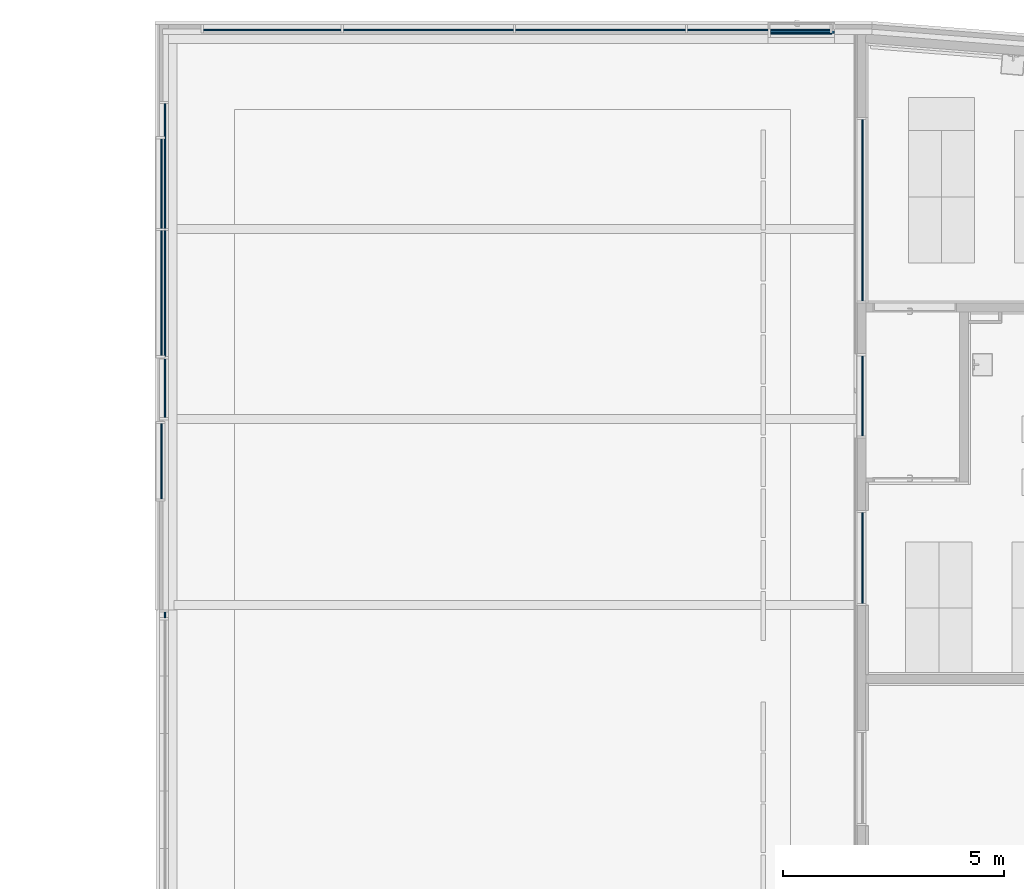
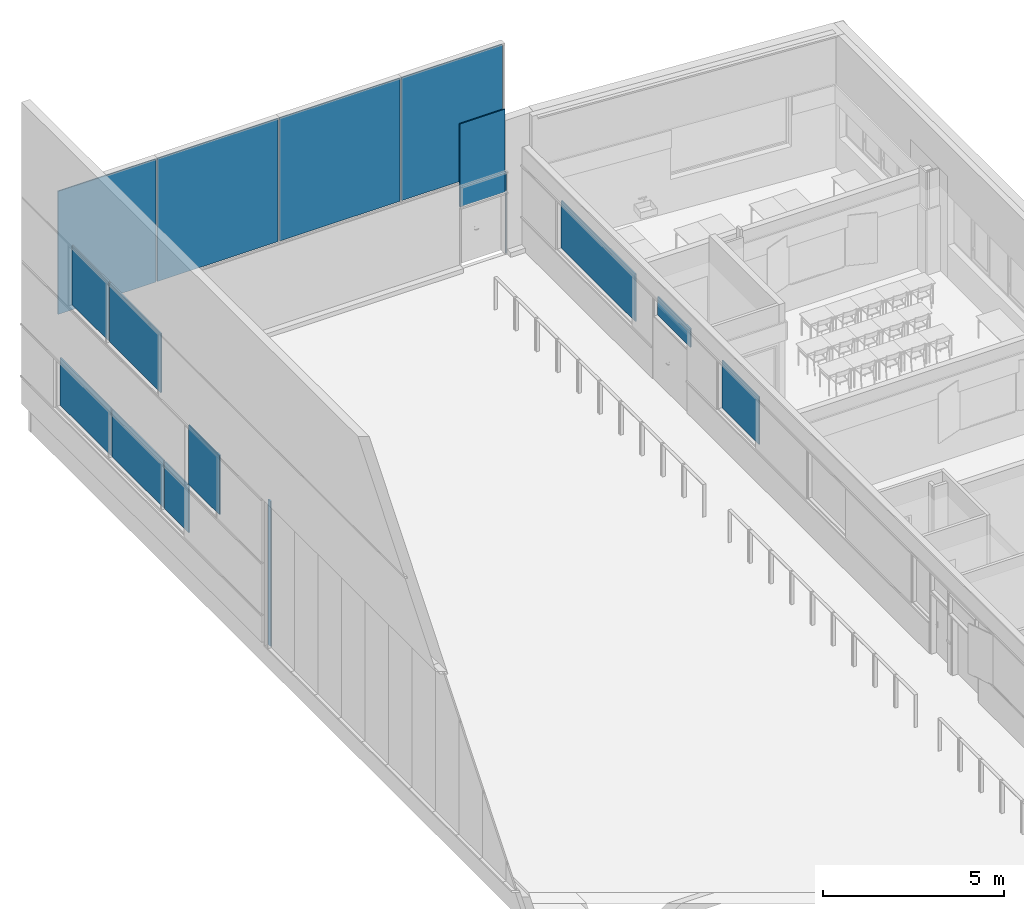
# One storey, part 31 of 137: 17 plates, 11 elements without a shape of their own.
"""IFC2X3 building model written with IfcOpenShell, lengths in centimetres."""

import ifcopenshell
import ifcopenshell.guid

model = None  # the IFC model being written
_history = None  # IfcOwnerHistory: only IFC2X3 demands one
_inside = {}  # id of a spatial element -> (the spatial element, [elements in it])
_under = {}  # id of a project, library or spatial element -> (it, [spatial elements below it])
_declared = {}  # id of a project -> (the project, [libraries it declares])
_typed = {}  # id of a type object -> (the type object, [elements of that type])
_made_of = {}  # id of a material, layer set ... -> (it, [elements and type objects made of it])


def new_model(schema):
    """Start an empty IFC model of exactly this schema.

    Asked for "IFC4X3", IfcOpenShell would pick the latest addendum, in which some entities
    have other attributes; the version numbers below select the first issue.
    IFC2X3 requires an IfcOwnerHistory on every rooted entity: one is made here for all.
    """
    global model, _history
    if schema == "IFC4X3":
        model = ifcopenshell.file(schema_version=(4, 3, 0, 0))
    else:
        model = ifcopenshell.file(schema=schema)
    _inside.clear()
    _under.clear()
    _declared.clear()
    _typed.clear()
    _made_of.clear()
    _history = None
    if model.schema == "IFC2X3":
        org = make("IfcOrganization", Name="unknown")
        user = make(
            "IfcPersonAndOrganization",
            ThePerson=make("IfcPerson", FamilyName="unknown"),
            TheOrganization=org,
        )
        app = make(
            "IfcApplication",
            ApplicationDeveloper=org,
            Version="unknown",
            ApplicationFullName="unknown",
            ApplicationIdentifier="unknown",
        )
        _history = make(
            "IfcOwnerHistory",
            OwningUser=user,
            OwningApplication=app,
            ChangeAction="ADDED",
            CreationDate=0,
        )
    return model


def make(cls, **values):
    """One entity of the class cls with the attributes given. An attribute that is None is left unset."""
    return model.create_entity(
        cls, **{name: value for name, value in values.items() if value is not None}
    )


def entity(cls, *values):
    """Any entity or typed value of the class cls, its attributes in the order of the schema. None: left unset."""
    e = model.create_entity(cls)
    for i, value in enumerate(values):
        if value is not None:
            e[i] = value
    return e


def rooted(cls, **values):
    """An entity with a GlobalId (a new one), such as an element, a storey or a relation."""
    return make(cls, GlobalId=ifcopenshell.guid.new(), OwnerHistory=_history, **values)


def si_unit(unit_type, name, prefix=None):
    """IfcSIUnit, for example si_unit("LENGTHUNIT", "METRE", prefix="MILLI")."""
    return make("IfcSIUnit", UnitType=unit_type, Prefix=prefix, Name=name)


def converted_unit(unit_type, name, factor, base, dimensions=None, offset=None):
    """IfcConversionBasedUnit, such as the inch: factor (a typed value) times the base unit."""
    return make(
        "IfcConversionBasedUnit"
        if offset is None
        else "IfcConversionBasedUnitWithOffset",
        ConversionOffset=offset,
        Dimensions=None
        if dimensions is None
        else entity("IfcDimensionalExponents", *dimensions),
        UnitType=unit_type,
        Name=name,
        ConversionFactor=make(
            "IfcMeasureWithUnit", ValueComponent=factor, UnitComponent=base
        ),
    )


def derived_unit(unit_type, elements):
    """IfcDerivedUnit: a product of units, each with its exponent."""
    return make(
        "IfcDerivedUnit",
        Elements=[
            make("IfcDerivedUnitElement", Unit=unit, Exponent=power)
            for unit, power in elements
        ],
        UnitType=unit_type,
    )


def assignment(units):
    """IfcUnitAssignment: the units of a project."""
    return None if units is None else make("IfcUnitAssignment", Units=units)


def point(xyz):
    """IfcCartesianPoint."""
    return None if xyz is None else make("IfcCartesianPoint", Coordinates=xyz)


def direction(xyz):
    """IfcDirection."""
    return None if xyz is None else make("IfcDirection", DirectionRatios=xyz)


def frame(location, z_axis=None, x_axis=None):
    """IfcAxis2Placement3D, a coordinate frame: its origin and axes. An axis left out is left unset."""
    return make(
        "IfcAxis2Placement3D",
        Location=point(location),
        Axis=direction(z_axis),
        RefDirection=direction(x_axis),
    )


def frame_2d(location, x_axis=None):
    """IfcAxis2Placement2D, a coordinate frame in the plane: its origin and x axis."""
    return make(
        "IfcAxis2Placement2D", Location=point(location), RefDirection=direction(x_axis)
    )


def origin():
    """The frame at (0, 0, 0) with its axes left unset."""
    return frame((0.0, 0.0, 0.0))


def origin_2d_with_axis():
    """The frame at (0, 0) in the plane with the x axis (1, 0) written out."""
    return frame_2d((0.0, 0.0), x_axis=(1.0, 0.0))


def place(relative_to, where):
    """IfcLocalPlacement: puts the frame where relative to a parent placement (None: the world)."""
    return make(
        "IfcLocalPlacement", PlacementRelTo=relative_to, RelativePlacement=where
    )


def context(
    kind, dimensions, precision=None, world=None, true_north=None, identifier=None
):
    """IfcGeometricRepresentationContext, for example the 3D "Model" context."""
    return make(
        "IfcGeometricRepresentationContext",
        ContextIdentifier=identifier,
        ContextType=kind,
        CoordinateSpaceDimension=dimensions,
        Precision=precision,
        WorldCoordinateSystem=world,
        TrueNorth=true_north,
    )


def subcontext(parent, identifier, kind, view, scale=None):
    """IfcGeometricRepresentationSubContext, for example "Body" below "Model"."""
    return make(
        "IfcGeometricRepresentationSubContext",
        ContextIdentifier=identifier,
        ContextType=kind,
        ParentContext=parent,
        TargetScale=scale,
        TargetView=view,
    )


def project(units=None, contexts=None):
    """IfcProject with its units and contexts."""
    return rooted(
        "IfcProject",
        Name="project",
        RepresentationContexts=contexts,
        UnitsInContext=assignment(units),
    )


def spatial(cls, under=None, at=None, **own):
    """A site, building, storey or space (cls), placed at a placement, below another one or the project."""
    s = rooted(cls, ObjectPlacement=at, **own)
    if under is not None:
        _under.setdefault(under.id(), (under, []))[1].append(s)
    return s


def polyline(points):
    """IfcPolyline through the points."""
    return make("IfcPolyline", Points=[point(p) for p in points])


def profile(cls, at=None, kind="AREA", **sizes):
    """A parametric profile (cls). Its sizes go by their IFC names, for example OverallWidth=200.0."""
    return make(cls, ProfileType=kind, Position=at, **sizes)


def rectangle(**sizes):
    """IfcRectangleProfileDef."""
    return profile("IfcRectangleProfileDef", **sizes)


def outline(outer, holes=None, kind="AREA"):
    """IfcArbitraryClosedProfileDef: a profile drawn as a closed curve; with holes, ...WithVoids."""
    if holes is None:
        return make("IfcArbitraryClosedProfileDef", ProfileType=kind, OuterCurve=outer)
    return make(
        "IfcArbitraryProfileDefWithVoids",
        ProfileType=kind,
        OuterCurve=outer,
        InnerCurves=holes,
    )


def extrude(swept, where, along, depth):
    """IfcExtrudedAreaSolid: the profile swept, set in the frame where, extruded along a direction by depth."""
    return make(
        "IfcExtrudedAreaSolid",
        SweptArea=swept,
        Position=where,
        ExtrudedDirection=direction(along),
        Depth=depth,
    )


def shape(context_of_items, identifier, shape_type, items):
    """IfcShapeRepresentation: the items that make up one representation, for example the "Body"."""
    return make(
        "IfcShapeRepresentation",
        ContextOfItems=context_of_items,
        RepresentationIdentifier=identifier,
        RepresentationType=shape_type,
        Items=items,
    )


def source(mapping_origin, context_of_items, identifier, shape_type, items):
    """IfcRepresentationMap: a shape defined once, which mapped items show again and again."""
    return make(
        "IfcRepresentationMap",
        MappingOrigin=mapping_origin,
        MappedRepresentation=shape(context_of_items, identifier, shape_type, items),
    )


def transform(
    local_origin,
    x_axis=None,
    y_axis=None,
    z_axis=None,
    scale=None,
    scale2=None,
    scale3=None,
    uniform=True,
):
    """IfcCartesianTransformationOperator3D, or its non-uniform kind. x_axis, y_axis, z_axis: its Axis1, 2, 3."""
    if uniform:
        return make(
            "IfcCartesianTransformationOperator3D",
            Axis1=direction(x_axis),
            Axis2=direction(y_axis),
            LocalOrigin=point(local_origin),
            Scale=scale,
            Axis3=direction(z_axis),
        )
    return make(
        "IfcCartesianTransformationOperator3DnonUniform",
        Axis1=direction(x_axis),
        Axis2=direction(y_axis),
        LocalOrigin=point(local_origin),
        Scale=scale,
        Axis3=direction(z_axis),
        Scale2=scale2,
        Scale3=scale3,
    )


def mapped(mapping_source, mapping_target):
    """IfcMappedItem: shows the shape of a source again, moved by a transform."""
    return make(
        "IfcMappedItem", MappingSource=mapping_source, MappingTarget=mapping_target
    )


def material(Name=None, Category=None):
    """IfcMaterial."""
    return make("IfcMaterial", Name=Name, Category=Category)


def made_of(thing, what):
    """Note that an element or type object is made of a material, layer set ...; save() writes the relation."""
    if what is not None:
        _made_of.setdefault(what.id(), (what, []))[1].append(thing)
    return thing


def type_object(cls, material=None, **own):
    """A type object (cls), such as IfcWallType, which elements share."""
    return made_of(rooted(cls, **own), material)


def type_shapes(of_type, sources):
    """Give a type object the sources (RepresentationMaps) that its elements show as mapped items."""
    of_type.RepresentationMaps = sources


def element(
    cls,
    number,
    at=None,
    inside=None,
    cuts=None,
    type_object=None,
    material=None,
    context=None,
    identifier="Body",
    shape_type=None,
    held_by="IfcProductDefinitionShape",
    body=None,
    shapes=None,
    **own,
):
    """One element of the class cls, such as IfcWall. Its Tag is "e" and its number.

    at: its placement. inside: the storey or other place that contains it. cuts: it is an
    opening in that element (IfcRelVoidsElement). A single representation is given by context,
    identifier, shape_type and body (its items); several are given by shapes. held_by: the class
    of the entity that holds the representations. save() writes the other relations.
    """
    e = rooted(cls, Tag="e%d" % number, ObjectPlacement=at, **own)
    if body is not None:
        shapes = [shape(context, identifier, shape_type, body)]
    if shapes is not None:
        e.Representation = make(held_by, Representations=shapes)
    if inside is not None:
        _inside.setdefault(inside.id(), (inside, []))[1].append(e)
    if cuts is not None:
        rooted(
            "IfcRelVoidsElement", RelatingBuildingElement=cuts, RelatedOpeningElement=e
        )
    if type_object is not None:
        _typed.setdefault(type_object.id(), (type_object, []))[1].append(e)
    return made_of(e, material)


def aggregate(whole, parts):
    """IfcRelAggregates: a whole, such as a stair, and the parts it consists of."""
    return rooted("IfcRelAggregates", RelatingObject=whole, RelatedObjects=parts)


def save(model, path):
    """Write the relations noted so far, then the file.

    IfcRelAggregates (storeys below a building ...), IfcRelContainedInSpatialStructure (elements
    in a storey), IfcRelDefinesByType, IfcRelAssociatesMaterial and IfcRelDeclares: one each for
    every whole, place, type object, material and project.
    """
    for whole, parts in _under.values():
        aggregate(whole, parts)
    for where, things in _inside.values():
        rooted(
            "IfcRelContainedInSpatialStructure",
            RelatedElements=things,
            RelatingStructure=where,
        )
    for kind, things in _typed.values():
        rooted("IfcRelDefinesByType", RelatedObjects=things, RelatingType=kind)
    for what, things in _made_of.values():
        rooted("IfcRelAssociatesMaterial", RelatedObjects=things, RelatingMaterial=what)
    for by, libraries in _declared.values():
        rooted("IfcRelDeclares", RelatingContext=by, RelatedDefinitions=libraries)
    model.write(path)


model = new_model("IFC2X3")

# Units and contexts
model_context = context("Model", 3, precision=0.001, world=origin(), true_north=direction((6.12303176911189e-17, 1.0)))
body_context = subcontext(model_context, "Body", "Model", "MODEL_VIEW")
ifc_project = project(units=[si_unit("LENGTHUNIT", "METRE", prefix="CENTI"), si_unit("AREAUNIT", "SQUARE_METRE"), si_unit("VOLUMEUNIT", "CUBIC_METRE"), converted_unit("PLANEANGLEUNIT", "DEGREE", entity("IfcRatioMeasure", 0.0174532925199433), si_unit("PLANEANGLEUNIT", "RADIAN"), dimensions=[0, 0, 0, 0, 0, 0, 0]), si_unit("MASSUNIT", "GRAM", prefix="KILO"), si_unit("TIMEUNIT", "SECOND"), si_unit("FREQUENCYUNIT", "HERTZ"), si_unit("THERMODYNAMICTEMPERATUREUNIT", "DEGREE_CELSIUS"), derived_unit("THERMALTRANSMITTANCEUNIT", [(si_unit("MASSUNIT", "GRAM", prefix="KILO"), 1), (si_unit("THERMODYNAMICTEMPERATUREUNIT", "KELVIN"), -1), (si_unit("TIMEUNIT", "SECOND"), -3)]), derived_unit("VOLUMETRICFLOWRATEUNIT", [(si_unit("LENGTHUNIT", "METRE"), 3), (si_unit("TIMEUNIT", "SECOND"), -1)]), si_unit("ELECTRICCURRENTUNIT", "AMPERE"), si_unit("ELECTRICVOLTAGEUNIT", "VOLT"), si_unit("POWERUNIT", "WATT"), si_unit("FORCEUNIT", "NEWTON", prefix="KILO"), si_unit("ILLUMINANCEUNIT", "LUX"), si_unit("LUMINOUSFLUXUNIT", "LUMEN"), si_unit("LUMINOUSINTENSITYUNIT", "CANDELA"), derived_unit("USERDEFINED", [(si_unit("MASSUNIT", "GRAM", prefix="KILO"), -1), (si_unit("LENGTHUNIT", "METRE"), -2), (si_unit("TIMEUNIT", "SECOND"), 3), (si_unit("LUMINOUSFLUXUNIT", "LUMEN"), 1)]), derived_unit("LINEARVELOCITYUNIT", [(si_unit("LENGTHUNIT", "METRE"), 1), (si_unit("TIMEUNIT", "SECOND"), -1)]), si_unit("PRESSUREUNIT", "PASCAL"), derived_unit("USERDEFINED", [(si_unit("LENGTHUNIT", "METRE"), -2), (si_unit("MASSUNIT", "GRAM", prefix="KILO"), 1), (si_unit("TIMEUNIT", "SECOND"), -2)])], contexts=[model_context])

# Site, building, storey
site_placement = place(None, frame((8.62739174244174, -249.285249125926, 0.0)))
site = spatial("IfcSite", under=ifc_project, at=site_placement, Name="Default", CompositionType="ELEMENT")
building_placement = place(site_placement, origin())
building = spatial("IfcBuilding", under=site, at=building_placement, CompositionType="ELEMENT")
storey_placement = place(building_placement, origin())
storey = spatial("IfcBuildingStorey", under=building, at=storey_placement, Name="RDC", CompositionType="ELEMENT", Elevation=-8.82465566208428e-11)

# Curtain wall, plates
curtain_wall_type = type_object("IfcCurtainWallType", Name="Mur-rideau:Simple panneau", PredefinedType="NOTDEFINED")
curtain_wall_1_placement = place(storey_placement, origin())
curtain_wall_1 = element("IfcCurtainWall", 1, at=curtain_wall_1_placement, inside=storey, type_object=curtain_wall_type, Name="Mur-rideau:Simple panneau", ObjectType="Mur-rideau:Simple panneau")
ifc_material_1 = material(Name="Verre")
plate_type_1 = type_object("IfcPlateType", Name="Vitré", PredefinedType="CURTAIN_PANEL", material=ifc_material_1)
shared_shape_1 = source(origin(), body_context, "Body", "SweptSolid", [
    extrude(rectangle(XDim=4.0, YDim=202.500000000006, at=frame_2d((4.44089209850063e-16, 0.0), x_axis=(1.0, 0.0))), frame((0.0, 2.49999999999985, 0.0), z_axis=(0.0, 0.0, 1.0), x_axis=(0.0, 1.0, 0.0)), (0.0, 0.0, 1.0), 200.0),
])
type_shapes(plate_type_1, [shared_shape_1])
plate_1_placement = place(curtain_wall_1_placement, frame((1458.9048277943, 7224.72694586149, 505.0), z_axis=(0.0, 0.0, 1.0), x_axis=(0.0, -1.0, 0.0)))
plate_1 = element("IfcPlate", 2, at=plate_1_placement, type_object=plate_type_1, material=ifc_material_1, Name="Panneau système:Vitré", ObjectType="Vitré", context=body_context, shape_type="MappedRepresentation", body=[
    mapped(shared_shape_1, transform((0.0, 0.0, 0.0), scale=1.0)),
])
plate_type_2 = type_object("IfcPlateType", Name="Vitré", PredefinedType="CURTAIN_PANEL", material=ifc_material_1)
shared_shape_2 = source(origin(), body_context, "Body", "SweptSolid", [
    extrude(rectangle(XDim=4.0, YDim=282.5, at=frame_2d((4.44089209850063e-16, 0.0), x_axis=(1.0, 0.0))), frame((0.0, 2.50000000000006, 0.0), z_axis=(0.0, 0.0, 1.0), x_axis=(0.0, 1.0, 0.0)), (0.0, 0.0, 1.0), 200.0),
])
type_shapes(plate_type_2, [shared_shape_2])
plate_2_placement = place(curtain_wall_1_placement, frame((1458.9048277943, 6977.22694586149, 505.0), z_axis=(0.0, 0.0, 1.0), x_axis=(0.0, -1.0, 0.0)))
plate_2 = element("IfcPlate", 3, at=plate_2_placement, type_object=plate_type_2, material=ifc_material_1, Name="Panneau système:Vitré", ObjectType="Vitré", context=body_context, shape_type="MappedRepresentation", body=[
    mapped(shared_shape_2, transform((0.0, 0.0, 0.0), scale=1.0)),
])
aggregate(curtain_wall_1, [plate_1, plate_2])

# Curtain wall, plate
curtain_wall_2_placement = place(storey_placement, origin())
curtain_wall_2 = element("IfcCurtainWall", 4, at=curtain_wall_2_placement, inside=storey, type_object=curtain_wall_type, Name="Mur-rideau:Simple panneau", ObjectType="Mur-rideau:Simple panneau")
ifc_material_2 = material(Name="Par défaut")
plate_type_3 = type_object("IfcPlateType", Name="Plein", PredefinedType="CURTAIN_PANEL", material=ifc_material_2)
shared_shape_3 = source(origin(), body_context, "Body", "SweptSolid", [
    extrude(rectangle(XDim=4.0, YDim=12.4999999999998, at=frame_2d((4.44089209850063e-16, 0.0), x_axis=(1.0, 0.0))), frame((0.0, 2.50000000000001, 0.0), z_axis=(0.0, 0.0, 1.0), x_axis=(0.0, 1.0, 0.0)), (0.0, 0.0, 1.0), 490.0),
])
type_shapes(plate_type_3, [shared_shape_3])
plate_3_placement = place(curtain_wall_2_placement, frame((1466.9048277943, 6250.02522290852, 5.0), z_axis=(0.0, 0.0, 1.0), x_axis=(0.0, -1.0, 0.0)))
plate_3 = element("IfcPlate", 5, at=plate_3_placement, type_object=plate_type_3, material=ifc_material_2, Name="Panneau système:Plein", ObjectType="Plein", context=body_context, shape_type="MappedRepresentation", body=[
    mapped(shared_shape_3, transform((0.0, 0.0, 0.0), scale=1.0)),
])
aggregate(curtain_wall_2, [plate_3])

curtain_wall_3_placement = place(storey_placement, origin())
curtain_wall_3 = element("IfcCurtainWall", 6, at=curtain_wall_3_placement, inside=storey, type_object=curtain_wall_type, Name="Mur-rideau:Simple panneau", ObjectType="Mur-rideau:Simple panneau")
plate_type_4 = type_object("IfcPlateType", Name="Vitré", PredefinedType="CURTAIN_PANEL", material=ifc_material_1)
shared_shape_4 = source(origin(), body_context, "Body", "SweptSolid", [
    extrude(rectangle(XDim=4.0, YDim=284.999999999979, at=origin_2d_with_axis()), frame((0.0, 2.49999999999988, 0.0), z_axis=(0.0, 0.0, 1.0), x_axis=(0.0, 1.0, 0.0)), (0.0, 0.0, 1.0), 159.999999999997),
])
type_shapes(plate_type_4, [shared_shape_4])
plate_4_placement = place(curtain_wall_3_placement, frame((1466.9048277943, 6976.0753356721, 115.0), z_axis=(0.0, 0.0, 1.0), x_axis=(0.0, -1.0, 0.0)))
plate_4 = element("IfcPlate", 7, at=plate_4_placement, type_object=plate_type_4, material=ifc_material_1, Name="Panneau système:Vitré", ObjectType="Vitré", context=body_context, shape_type="MappedRepresentation", body=[
    mapped(shared_shape_4, transform((0.0, 0.0, 0.0), scale=1.0)),
])

curtain_wall_4_placement = place(storey_placement, origin())
curtain_wall_4 = element("IfcCurtainWall", 8, at=curtain_wall_4_placement, inside=storey, type_object=curtain_wall_type, Name="Mur-rideau:Simple panneau", ObjectType="Mur-rideau:Simple panneau")
plate_type_5 = type_object("IfcPlateType", Name="Vitré", PredefinedType="CURTAIN_PANEL", material=ifc_material_1)
shared_shape_5 = source(origin(), body_context, "Body", "SweptSolid", [
    extrude(rectangle(XDim=4.0, YDim=205.0, at=origin_2d_with_axis()), frame((0.0, -2.50000000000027, 0.0), z_axis=(0.0, 0.0, 1.0), x_axis=(0.0, 1.0, 0.0)), (0.0, 0.0, 1.0), 160.0),
])
type_shapes(plate_type_5, [shared_shape_5])
plate_5_placement = place(curtain_wall_4_placement, frame((3043.9048277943, 6378.77522290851, 115.0), z_axis=(0.0, 0.0, 1.0), x_axis=(0.0, 1.0, 0.0)))
plate_5 = element("IfcPlate", 9, at=plate_5_placement, type_object=plate_type_5, material=ifc_material_1, Name="Panneau système:Vitré", ObjectType="Vitré", context=body_context, shape_type="MappedRepresentation", body=[
    mapped(shared_shape_5, transform((0.0, 0.0, 0.0), scale=1.0)),
])
aggregate(curtain_wall_4, [plate_5])

curtain_wall_5_placement = place(storey_placement, origin())
curtain_wall_5 = element("IfcCurtainWall", 10, at=curtain_wall_5_placement, inside=storey, type_object=curtain_wall_type, Name="Mur-rideau:Simple panneau", ObjectType="Mur-rideau:Simple panneau")
plate_type_6 = type_object("IfcPlateType", Name="Vitré", PredefinedType="CURTAIN_PANEL", material=ifc_material_1)
shared_shape_6 = source(origin(), body_context, "Body", "SweptSolid", [
    extrude(rectangle(XDim=4.0, YDim=410.000000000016, at=origin_2d_with_axis()), frame((0.0, -2.50000000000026, 0.0), z_axis=(0.0, 0.0, 1.0), x_axis=(0.0, 1.0, 0.0)), (0.0, 0.0, 1.0), 160.0),
])
type_shapes(plate_type_6, [shared_shape_6])
plate_6_placement = place(curtain_wall_5_placement, frame((3043.9048277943, 7164.7007380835, 115.0), z_axis=(0.0, 0.0, 1.0), x_axis=(0.0, 1.0, 0.0)))
plate_6 = element("IfcPlate", 11, at=plate_6_placement, type_object=plate_type_6, material=ifc_material_1, Name="Panneau système:Vitré", ObjectType="Vitré", context=body_context, shape_type="MappedRepresentation", body=[
    mapped(shared_shape_6, transform((0.0, 0.0, 0.0), scale=1.0)),
])
aggregate(curtain_wall_5, [plate_6])

curtain_wall_6_placement = place(storey_placement, origin())
curtain_wall_6 = element("IfcCurtainWall", 12, at=curtain_wall_6_placement, inside=storey, type_object=curtain_wall_type, Name="Mur-rideau:Simple panneau", ObjectType="Mur-rideau:Simple panneau")
plate_type_7 = type_object("IfcPlateType", Name="Vitré", PredefinedType="CURTAIN_PANEL", material=ifc_material_1)
shared_shape_7 = source(origin(), body_context, "Body", "SweptSolid", [
    extrude(rectangle(XDim=4.0, YDim=169.999999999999, at=origin_2d_with_axis()), frame((0.0, 2.5, 0.0), z_axis=(0.0, 0.0, 1.0), x_axis=(0.0, 1.0, 0.0)), (0.0, 0.0, 1.0), 199.999999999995),
])
type_shapes(plate_type_7, [shared_shape_7])
plate_7_placement = place(curtain_wall_6_placement, frame((1458.9048277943, 6597.47200252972, 290.0), z_axis=(0.0, 0.0, 1.0), x_axis=(0.0, -1.0, 0.0)))
plate_7 = element("IfcPlate", 13, at=plate_7_placement, type_object=plate_type_7, material=ifc_material_1, Name="Panneau système:Vitré", ObjectType="Vitré", context=body_context, shape_type="MappedRepresentation", body=[
    mapped(shared_shape_7, transform((0.0, 0.0, 0.0), scale=1.0)),
])
aggregate(curtain_wall_6, [plate_7])

curtain_wall_7_placement = place(storey_placement, origin())
curtain_wall_7 = element("IfcCurtainWall", 14, at=curtain_wall_7_placement, inside=storey, type_object=curtain_wall_type, Name="Mur-rideau:Simple panneau", ObjectType="Mur-rideau:Simple panneau")
plate_8_placement = place(curtain_wall_7_placement, frame((1458.90482779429, 6597.47200252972, 290.0), z_axis=(0.0, 0.0, 1.0), x_axis=(0.0, -1.0, 0.0)))
plate_8 = element("IfcPlate", 15, at=plate_8_placement, type_object=plate_type_7, material=ifc_material_1, Name="Panneau système:Vitré", ObjectType="Vitré", context=body_context, shape_type="MappedRepresentation", body=[
    mapped(shared_shape_7, transform((0.0, 0.0, 0.0), scale=1.0)),
])
aggregate(curtain_wall_7, [plate_8])

# Plate
plate_type_8 = type_object("IfcPlateType", Name="Vitré", PredefinedType="CURTAIN_PANEL", material=ifc_material_1)
shared_shape_8 = source(origin(), body_context, "Body", "SweptSolid", [
    extrude(rectangle(XDim=4.0, YDim=282.396666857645, at=origin_2d_with_axis()), frame((0.0, 2.49999999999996, 0.0), z_axis=(0.0, 0.0, 1.0), x_axis=(0.0, 1.0, 0.0)), (0.0, 0.0, 1.0), 159.999999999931),
])
type_shapes(plate_type_8, [shared_shape_8])
plate_9_placement = place(curtain_wall_3_placement, frame((1466.9048277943, 7264.77366910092, 115.0), z_axis=(0.0, 0.0, 1.0), x_axis=(0.0, -1.0, 0.0)))
plate_9 = element("IfcPlate", 16, at=plate_9_placement, type_object=plate_type_8, material=ifc_material_1, Name="Panneau système:Vitré", ObjectType="Vitré", context=body_context, shape_type="MappedRepresentation", body=[
    mapped(shared_shape_8, transform((0.0, 0.0, 0.0), scale=1.0)),
])

plate_type_9 = type_object("IfcPlateType", Name="Vitré", PredefinedType="CURTAIN_PANEL", material=ifc_material_1)
shared_shape_9 = source(origin(), body_context, "Body", "SweptSolid", [
    extrude(rectangle(XDim=4.0, YDim=132.603333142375, at=frame_2d((4.44089209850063e-16, 0.0), x_axis=(1.0, 0.0))), frame((0.0, 2.50000000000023, 0.0), z_axis=(0.0, 0.0, 1.0), x_axis=(0.0, 1.0, 0.0)), (0.0, 0.0, 1.0), 159.999999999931),
])
type_shapes(plate_type_9, [shared_shape_9])
plate_10_placement = place(curtain_wall_3_placement, frame((1466.9048277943, 6762.27366910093, 115.0), z_axis=(0.0, 0.0, 1.0), x_axis=(0.0, -1.0, 0.0)))
plate_10 = element("IfcPlate", 17, at=plate_10_placement, type_object=plate_type_9, material=ifc_material_1, Name="Panneau système:Vitré", ObjectType="Vitré", context=body_context, shape_type="MappedRepresentation", body=[
    mapped(shared_shape_9, transform((0.0, 0.0, 0.0), scale=1.0)),
])

aggregate(curtain_wall_3, [plate_9, plate_4, plate_10])

# Curtain wall, plates
curtain_wall_8_placement = place(storey_placement, origin())
curtain_wall_8 = element("IfcCurtainWall", 18, at=curtain_wall_8_placement, inside=storey, type_object=curtain_wall_type, Name="Mur-rideau:Simple panneau", ObjectType="Mur-rideau:Simple panneau")
plate_type_10 = type_object("IfcPlateType", Name="Vitré", PredefinedType="CURTAIN_PANEL", material=ifc_material_1)
shared_shape_10 = source(origin(), body_context, "Body", "SweptSolid", [
    extrude(rectangle(XDim=4.0, YDim=321.780764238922, at=frame_2d((-4.44089209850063e-16, 0.0), x_axis=(1.0, 0.0))), frame((0.0, 2.50000000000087, 0.0), z_axis=(0.0, 0.0, 1.0), x_axis=(0.0, 1.0, 0.0)), (0.0, 0.0, 1.0), 415.000000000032),
])
type_shapes(plate_type_10, [shared_shape_10])
plate_11_placement = place(curtain_wall_8_placement, frame((2812.01444568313, 7574.976551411, 290.0), z_axis=(0.0, 0.0, 1.0), x_axis=(-1.0, 0.0, 0.0)))
plate_11 = element("IfcPlate", 19, at=plate_11_placement, type_object=plate_type_10, material=ifc_material_1, Name="Panneau système:Vitré", ObjectType="Vitré", context=body_context, shape_type="MappedRepresentation", body=[
    mapped(shared_shape_10, transform((0.0, 0.0, 0.0), scale=1.0)),
])
plate_type_11 = type_object("IfcPlateType", Name="Vitré", PredefinedType="CURTAIN_PANEL", material=ifc_material_1)
shared_shape_11 = source(origin(), body_context, "Body", "SweptSolid", [
    extrude(rectangle(XDim=4.0, YDim=384.21682185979, at=frame_2d((-4.44089209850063e-16, 0.0), x_axis=(1.0, 0.0))), frame((0.0, 2.50000000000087, 0.0), z_axis=(0.0, 0.0, 1.0), x_axis=(0.0, 1.0, 0.0)), (0.0, 0.0, 1.0), 415.000000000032),
])
type_shapes(plate_type_11, [shared_shape_11])
plate_12_placement = place(curtain_wall_8_placement, frame((2454.01565263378, 7574.976551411, 290.0), z_axis=(0.0, 0.0, 1.0), x_axis=(-1.0, 0.0, 0.0)))
plate_12 = element("IfcPlate", 20, at=plate_12_placement, type_object=plate_type_11, material=ifc_material_1, Name="Panneau système:Vitré", ObjectType="Vitré", context=body_context, shape_type="MappedRepresentation", body=[
    mapped(shared_shape_11, transform((0.0, 0.0, 0.0), scale=1.0)),
])
plate_type_12 = type_object("IfcPlateType", Name="Vitré", PredefinedType="CURTAIN_PANEL", material=ifc_material_1)
shared_shape_12 = source(origin(), body_context, "Body", "SweptSolid", [
    extrude(rectangle(XDim=4.0, YDim=384.250000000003, at=frame_2d((-4.44089209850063e-16, 0.0), x_axis=(1.0, 0.0))), frame((0.0, 2.5, 0.0), z_axis=(0.0, 0.0, 1.0), x_axis=(0.0, 1.0, 0.0)), (0.0, 0.0, 1.0), 415.000000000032),
])
type_shapes(plate_type_12, [shared_shape_12])
plate_13_placement = place(curtain_wall_8_placement, frame((2064.78224170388, 7574.976551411, 290.0), z_axis=(0.0, 0.0, 1.0), x_axis=(-1.0, 0.0, 0.0)))
plate_13 = element("IfcPlate", 21, at=plate_13_placement, type_object=plate_type_12, material=ifc_material_1, Name="Panneau système:Vitré", ObjectType="Vitré", context=body_context, shape_type="MappedRepresentation", body=[
    mapped(shared_shape_12, transform((0.0, 0.0, 0.0), scale=1.0)),
])
plate_type_13 = type_object("IfcPlateType", Name="Vitré", PredefinedType="CURTAIN_PANEL", material=ifc_material_1)
shared_shape_13 = source(origin(), body_context, "Body", "SweptSolid", [
    extrude(rectangle(XDim=4.0, YDim=311.752413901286, at=frame_2d((-4.44089209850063e-16, 0.0), x_axis=(1.0, 0.0))), frame((0.0, 2.5, 0.0), z_axis=(0.0, 0.0, 1.0), x_axis=(0.0, 1.0, 0.0)), (0.0, 0.0, 1.0), 415.000000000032),
])
type_shapes(plate_type_13, [shared_shape_13])
plate_14_placement = place(curtain_wall_8_placement, frame((1711.78103475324, 7574.976551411, 290.0), z_axis=(0.0, 0.0, 1.0), x_axis=(-1.0, 0.0, 0.0)))
plate_14 = element("IfcPlate", 22, at=plate_14_placement, type_object=plate_type_13, material=ifc_material_1, Name="Panneau système:Vitré", ObjectType="Vitré", context=body_context, shape_type="MappedRepresentation", body=[
    mapped(shared_shape_13, transform((0.0, 0.0, 0.0), scale=1.0)),
])
aggregate(curtain_wall_8, [plate_11, plate_12, plate_13, plate_14])

# Curtain wall, plate
curtain_wall_9_placement = place(storey_placement, origin())
curtain_wall_9 = element("IfcCurtainWall", 23, at=curtain_wall_9_placement, inside=storey, type_object=curtain_wall_type, Name="Mur-rideau:Simple panneau", ObjectType="Mur-rideau:Simple panneau")
plate_type_14 = type_object("IfcPlateType", Name="Vitré", PredefinedType="CURTAIN_PANEL", material=ifc_material_1)
shared_shape_14 = source(origin(), body_context, "Body", "SweptSolid", [
    extrude(rectangle(XDim=4.0, YDim=180.999999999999, at=frame_2d((4.44089209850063e-16, 0.0), x_axis=(1.0, 0.0))), frame((0.0, 2.50000000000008, 0.0), z_axis=(0.0, 0.0, 1.0), x_axis=(0.0, 1.0, 0.0)), (0.0, 0.0, 1.0), 61.9999999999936),
])
type_shapes(plate_type_14, [shared_shape_14])
plate_15_placement = place(curtain_wall_9_placement, frame((3043.9048277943, 6745.28019846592, 213.0), z_axis=(0.0, 0.0, 1.0), x_axis=(0.0, -1.0, 0.0)))
plate_15 = element("IfcPlate", 24, at=plate_15_placement, type_object=plate_type_14, material=ifc_material_1, Name="Panneau système:Vitré", ObjectType="Vitré", context=body_context, shape_type="MappedRepresentation", body=[
    mapped(shared_shape_14, transform((0.0, 0.0, 0.0), scale=1.0)),
])
aggregate(curtain_wall_9, [plate_15])

curtain_wall_10_placement = place(storey_placement, origin())
curtain_wall_10 = element("IfcCurtainWall", 25, at=curtain_wall_10_placement, inside=storey, type_object=curtain_wall_type, Name="Mur-rideau:Simple panneau", ObjectType="Mur-rideau:Simple panneau")
plate_type_15 = type_object("IfcPlateType", Name="Vitré", PredefinedType="CURTAIN_PANEL", material=ifc_material_1)
shared_shape_15 = source(origin(), body_context, "Body", "SweptSolid", [
    extrude(rectangle(XDim=4.0, YDim=144.0, at=frame_2d((-4.44089209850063e-16, 0.0), x_axis=(1.0, 0.0))), frame((0.0, 2.5, 0.0), z_axis=(0.0, 0.0, 1.0), x_axis=(0.0, 1.0, 0.0)), (0.0, 0.0, 1.0), 280.0),
])
type_shapes(plate_type_15, [shared_shape_15])
plate_16_placement = place(curtain_wall_10_placement, frame((2904.90482780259, 7561.976551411, 210.0)))
plate_16 = element("IfcPlate", 26, at=plate_16_placement, type_object=plate_type_15, material=ifc_material_1, Name="Panneau système:Vitré", ObjectType="Vitré", context=body_context, shape_type="MappedRepresentation", body=[
    mapped(shared_shape_15, transform((0.0, 0.0, 0.0), scale=1.0)),
])
aggregate(curtain_wall_10, [plate_16])

curtain_wall_11_placement = place(storey_placement, origin())
curtain_wall_11 = element("IfcCurtainWall", 27, at=curtain_wall_11_placement, inside=storey, type_object=curtain_wall_type, Name="Mur-rideau:Simple panneau", ObjectType="Mur-rideau:Simple panneau")
plate_type_16 = type_object("IfcPlateType", Name="Vitré", PredefinedType="CURTAIN_PANEL", material=ifc_material_1)
shared_shape_16 = source(origin(), body_context, "Body", "SweptSolid", [
    extrude(outline(polyline([(-162.333333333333, -47.6666666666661), (-162.333333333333, -48.6666666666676), (112.666666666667, -48.6666666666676), (112.666666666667, 96.3333333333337), (49.6666666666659, 96.3333333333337), (49.6666666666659, -47.6666666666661), (-162.333333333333, -47.6666666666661)])), frame((23.8333333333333, 0.500000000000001, 162.333333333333), z_axis=(0.0, -1.0, 0.0), x_axis=(0.0, 0.0, 1.0)), (0.0, 0.0, -1.0), 4.0),
])
type_shapes(plate_type_16, [shared_shape_16])
plate_17_placement = place(curtain_wall_11_placement, frame((2910.40482780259, 7564.976551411, 0.0)))
plate_17 = element("IfcPlate", 28, at=plate_17_placement, type_object=plate_type_16, material=ifc_material_1, Name="Panneau système:Vitré", ObjectType="Vitré", context=body_context, shape_type="MappedRepresentation", body=[
    mapped(shared_shape_16, transform((0.0, 0.0, 0.0), scale=1.0)),
])
aggregate(curtain_wall_11, [plate_17])

save(model, "model.ifc")
